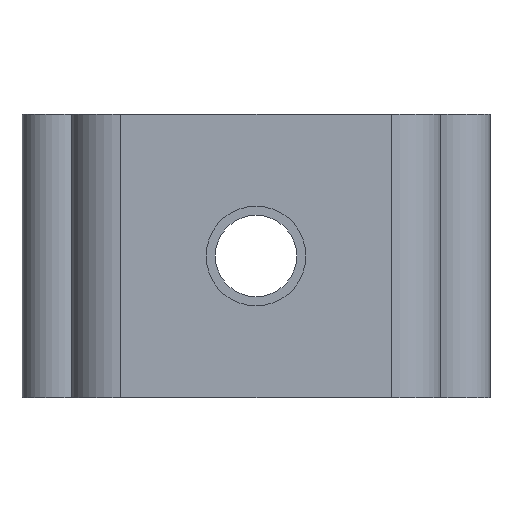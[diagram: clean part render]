
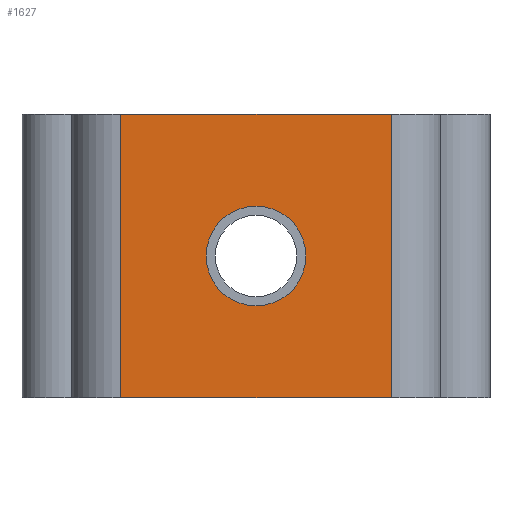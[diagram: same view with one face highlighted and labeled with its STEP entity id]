
A CAD part, left-side view. The second image highlights one B-rep face of the part: STEP entity #1627.
In plain terms, the highlighted planar face has unit normal (-1, 0, 0).
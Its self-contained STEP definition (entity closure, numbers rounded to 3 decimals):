
#44 = PLANE('',#45);
#45 = AXIS2_PLACEMENT_3D('',#46,#47,#48);
#46 = CARTESIAN_POINT('',(0.,0.,0.));
#47 = DIRECTION('',(0.,0.,1.));
#48 = DIRECTION('',(1.,0.,-0.));
#72 = CYLINDRICAL_SURFACE('',#73,8.);
#73 = AXIS2_PLACEMENT_3D('',#74,#75,#76);
#74 = CARTESIAN_POINT('',(-69.,-22.,0.));
#75 = DIRECTION('',(-0.,0.,-1.));
#76 = DIRECTION('',(1.,0.,0.));
#100 = PLANE('',#101);
#101 = AXIS2_PLACEMENT_3D('',#102,#103,#104);
#102 = CARTESIAN_POINT('',(0.,0.,46.));
#103 = DIRECTION('',(0.,0.,1.));
#104 = DIRECTION('',(1.,0.,-0.));
#170 = VERTEX_POINT('',#171);
#171 = CARTESIAN_POINT('',(-77.,22.,0.));
#186 = CYLINDRICAL_SURFACE('',#187,8.);
#187 = AXIS2_PLACEMENT_3D('',#188,#189,#190);
#188 = CARTESIAN_POINT('',(-69.,22.,0.));
#189 = DIRECTION('',(-0.,0.,-1.));
#190 = DIRECTION('',(1.,0.,0.));
#198 = EDGE_CURVE('',#170,#199,#201,.T.);
#199 = VERTEX_POINT('',#200);
#200 = CARTESIAN_POINT('',(-77.,-22.,0.));
#201 = SURFACE_CURVE('',#202,(#206,#213),.PCURVE_S1.);
#202 = LINE('',#203,#204);
#203 = CARTESIAN_POINT('',(-77.,30.,0.));
#204 = VECTOR('',#205,1.);
#205 = DIRECTION('',(0.,-1.,0.));
#206 = PCURVE('',#44,#207);
#207 = DEFINITIONAL_REPRESENTATION('',(#208),#212);
#208 = LINE('',#209,#210);
#209 = CARTESIAN_POINT('',(-77.,30.));
#210 = VECTOR('',#211,1.);
#211 = DIRECTION('',(0.,-1.));
#212 = ( GEOMETRIC_REPRESENTATION_CONTEXT(2) 
PARAMETRIC_REPRESENTATION_CONTEXT() REPRESENTATION_CONTEXT('2D SPACE',''
  ) );
#213 = PCURVE('',#214,#219);
#214 = PLANE('',#215);
#215 = AXIS2_PLACEMENT_3D('',#216,#217,#218);
#216 = CARTESIAN_POINT('',(-77.,22.,0.));
#217 = DIRECTION('',(1.,0.,-0.));
#218 = DIRECTION('',(0.,-1.,0.));
#219 = DEFINITIONAL_REPRESENTATION('',(#220),#224);
#220 = LINE('',#221,#222);
#221 = CARTESIAN_POINT('',(-8.,0.));
#222 = VECTOR('',#223,1.);
#223 = DIRECTION('',(1.,0.));
#224 = ( GEOMETRIC_REPRESENTATION_CONTEXT(2) 
PARAMETRIC_REPRESENTATION_CONTEXT() REPRESENTATION_CONTEXT('2D SPACE',''
  ) );
#793 = VERTEX_POINT('',#794);
#794 = CARTESIAN_POINT('',(-77.,22.,46.));
#816 = EDGE_CURVE('',#793,#817,#819,.T.);
#817 = VERTEX_POINT('',#818);
#818 = CARTESIAN_POINT('',(-77.,-22.,46.));
#819 = SURFACE_CURVE('',#820,(#824,#831),.PCURVE_S1.);
#820 = LINE('',#821,#822);
#821 = CARTESIAN_POINT('',(-77.,30.,46.));
#822 = VECTOR('',#823,1.);
#823 = DIRECTION('',(0.,-1.,0.));
#824 = PCURVE('',#100,#825);
#825 = DEFINITIONAL_REPRESENTATION('',(#826),#830);
#826 = LINE('',#827,#828);
#827 = CARTESIAN_POINT('',(-77.,30.));
#828 = VECTOR('',#829,1.);
#829 = DIRECTION('',(0.,-1.));
#830 = ( GEOMETRIC_REPRESENTATION_CONTEXT(2) 
PARAMETRIC_REPRESENTATION_CONTEXT() REPRESENTATION_CONTEXT('2D SPACE',''
  ) );
#831 = PCURVE('',#214,#832);
#832 = DEFINITIONAL_REPRESENTATION('',(#833),#837);
#833 = LINE('',#834,#835);
#834 = CARTESIAN_POINT('',(-8.,-46.));
#835 = VECTOR('',#836,1.);
#836 = DIRECTION('',(1.,0.));
#837 = ( GEOMETRIC_REPRESENTATION_CONTEXT(2) 
PARAMETRIC_REPRESENTATION_CONTEXT() REPRESENTATION_CONTEXT('2D SPACE',''
  ) );
#1482 = EDGE_CURVE('',#199,#817,#1483,.T.);
#1483 = SURFACE_CURVE('',#1484,(#1488,#1495),.PCURVE_S1.);
#1484 = LINE('',#1485,#1486);
#1485 = CARTESIAN_POINT('',(-77.,-22.,0.));
#1486 = VECTOR('',#1487,1.);
#1487 = DIRECTION('',(0.,0.,1.));
#1488 = PCURVE('',#72,#1489);
#1489 = DEFINITIONAL_REPRESENTATION('',(#1490),#1494);
#1490 = LINE('',#1491,#1492);
#1491 = CARTESIAN_POINT('',(-3.142,0.));
#1492 = VECTOR('',#1493,1.);
#1493 = DIRECTION('',(-0.,-1.));
#1494 = ( GEOMETRIC_REPRESENTATION_CONTEXT(2) 
PARAMETRIC_REPRESENTATION_CONTEXT() REPRESENTATION_CONTEXT('2D SPACE',''
  ) );
#1495 = PCURVE('',#214,#1496);
#1496 = DEFINITIONAL_REPRESENTATION('',(#1497),#1501);
#1497 = LINE('',#1498,#1499);
#1498 = CARTESIAN_POINT('',(44.,0.));
#1499 = VECTOR('',#1500,1.);
#1500 = DIRECTION('',(0.,-1.));
#1501 = ( GEOMETRIC_REPRESENTATION_CONTEXT(2) 
PARAMETRIC_REPRESENTATION_CONTEXT() REPRESENTATION_CONTEXT('2D SPACE',''
  ) );
#1581 = EDGE_CURVE('',#170,#793,#1582,.T.);
#1582 = SURFACE_CURVE('',#1583,(#1587,#1594),.PCURVE_S1.);
#1583 = LINE('',#1584,#1585);
#1584 = CARTESIAN_POINT('',(-77.,22.,0.));
#1585 = VECTOR('',#1586,1.);
#1586 = DIRECTION('',(0.,0.,1.));
#1587 = PCURVE('',#186,#1588);
#1588 = DEFINITIONAL_REPRESENTATION('',(#1589),#1593);
#1589 = LINE('',#1590,#1591);
#1590 = CARTESIAN_POINT('',(-3.142,0.));
#1591 = VECTOR('',#1592,1.);
#1592 = DIRECTION('',(-0.,-1.));
#1593 = ( GEOMETRIC_REPRESENTATION_CONTEXT(2) 
PARAMETRIC_REPRESENTATION_CONTEXT() REPRESENTATION_CONTEXT('2D SPACE',''
  ) );
#1594 = PCURVE('',#214,#1595);
#1595 = DEFINITIONAL_REPRESENTATION('',(#1596),#1600);
#1596 = LINE('',#1597,#1598);
#1597 = CARTESIAN_POINT('',(0.,0.));
#1598 = VECTOR('',#1599,1.);
#1599 = DIRECTION('',(0.,-1.));
#1600 = ( GEOMETRIC_REPRESENTATION_CONTEXT(2) 
PARAMETRIC_REPRESENTATION_CONTEXT() REPRESENTATION_CONTEXT('2D SPACE',''
  ) );
#1627 = ADVANCED_FACE('',(#1628,#1634),#214,.F.);
#1628 = FACE_BOUND('',#1629,.F.);
#1629 = EDGE_LOOP('',(#1630,#1631,#1632,#1633));
#1630 = ORIENTED_EDGE('',*,*,#1581,.T.);
#1631 = ORIENTED_EDGE('',*,*,#816,.T.);
#1632 = ORIENTED_EDGE('',*,*,#1482,.F.);
#1633 = ORIENTED_EDGE('',*,*,#198,.F.);
#1634 = FACE_BOUND('',#1635,.F.);
#1635 = EDGE_LOOP('',(#1636));
#1636 = ORIENTED_EDGE('',*,*,#1637,.F.);
#1637 = EDGE_CURVE('',#1638,#1638,#1640,.T.);
#1638 = VERTEX_POINT('',#1639);
#1639 = CARTESIAN_POINT('',(-77.,0.,31.1));
#1640 = SURFACE_CURVE('',#1641,(#1646,#1653),.PCURVE_S1.);
#1641 = CIRCLE('',#1642,8.1);
#1642 = AXIS2_PLACEMENT_3D('',#1643,#1644,#1645);
#1643 = CARTESIAN_POINT('',(-77.,0.,23.));
#1644 = DIRECTION('',(1.,0.,0.));
#1645 = DIRECTION('',(-0.,0.,1.));
#1646 = PCURVE('',#214,#1647);
#1647 = DEFINITIONAL_REPRESENTATION('',(#1648),#1652);
#1648 = CIRCLE('',#1649,8.1);
#1649 = AXIS2_PLACEMENT_2D('',#1650,#1651);
#1650 = CARTESIAN_POINT('',(22.,-23.));
#1651 = DIRECTION('',(0.,-1.));
#1652 = ( GEOMETRIC_REPRESENTATION_CONTEXT(2) 
PARAMETRIC_REPRESENTATION_CONTEXT() REPRESENTATION_CONTEXT('2D SPACE',''
  ) );
#1653 = PCURVE('',#1654,#1659);
#1654 = CYLINDRICAL_SURFACE('',#1655,8.1);
#1655 = AXIS2_PLACEMENT_3D('',#1656,#1657,#1658);
#1656 = CARTESIAN_POINT('',(-78.,0.,23.));
#1657 = DIRECTION('',(1.,0.,0.));
#1658 = DIRECTION('',(-0.,0.,1.));
#1659 = DEFINITIONAL_REPRESENTATION('',(#1660),#1664);
#1660 = LINE('',#1661,#1662);
#1661 = CARTESIAN_POINT('',(0.,1.));
#1662 = VECTOR('',#1663,1.);
#1663 = DIRECTION('',(1.,0.));
#1664 = ( GEOMETRIC_REPRESENTATION_CONTEXT(2) 
PARAMETRIC_REPRESENTATION_CONTEXT() REPRESENTATION_CONTEXT('2D SPACE',''
  ) );
